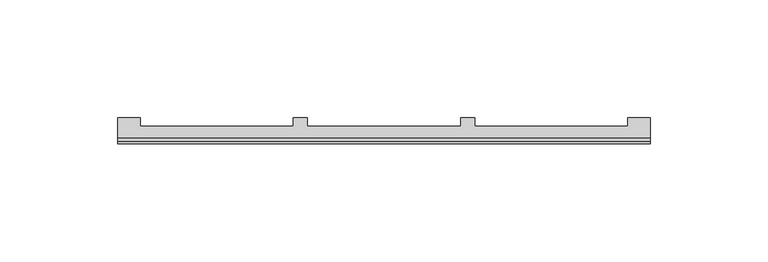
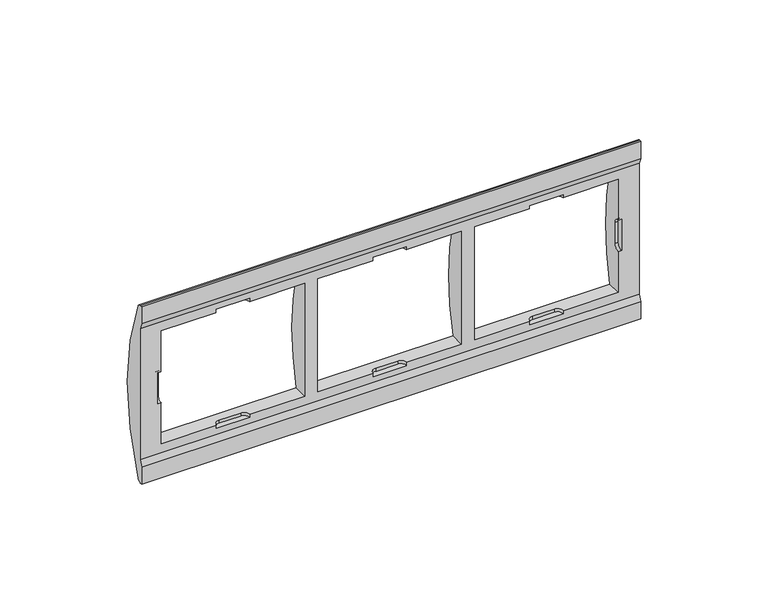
"""IFC4 building model written with IfcOpenShell, lengths in millimetres: proxy geometry, Iris_AluminioMercurio : Marco 3 Elementos."""

from ifc_helpers import new_model, si_unit, frame, origin, place, context, project, spatial, polyline, circle_curve, source, transform, mapped, element, save
from ifc_brep_helpers import plane_surface, cylinder_surface, revolved_surface, advanced_brep


def electrical_fixtures_3385e85f(model_context):
    return source(origin(), model_context, "Body", "AdvancedBrep", [
        advanced_brep(
        [(-58.7, 100.0, 957.5), (-58.7, 100.0, 965.7230531), (-58.7, 101.0, 968.6297767), (-58.7, 101.0, 1031.3702233), (-58.7, 100.0, 1034.2769469), (-58.7, 100.0, 1042.5), (-58.7, 100.7901352, 1042.5), (-58.7, 102.6322532, 1041.2788462), (-58.7, 102.6322532, 958.7211538), (-58.7, 100.7901352, 957.5), (167.3, 100.0, 957.5), (167.3, 100.7901352, 957.5), (167.3, 102.6322532, 958.7211538), (167.3, 102.6322532, 1041.2788462), (167.3, 100.7901352, 1042.5), (167.3, 100.0, 1042.5), (167.3, 100.0, 1034.2769469), (167.3, 101.0, 1031.3702233), (167.3, 101.0, 968.6297767), (167.3, 100.0, 965.7230531), (157.8, 111.0, 1000.0), (157.8, 107.5036585, 1027.0), (92.8, 107.5036585, 1027.0), (92.8, 111.0, 1000.0), (92.8, 107.5036585, 973.0), (157.8, 107.5036585, 973.0), (86.8, 111.0, 1000.0), (86.8, 107.5036585, 1027.0), (21.8, 107.5036585, 1027.0), (21.8, 111.0, 1000.0), (21.8, 107.5036585, 973.0), (86.8, 107.5036585, 973.0), (15.8, 111.0, 1000.0), (15.8, 107.5036585, 1027.0), (-49.2, 107.5036585, 1027.0), (-49.2, 111.0, 1000.0), (-49.2, 107.5036585, 973.0), (15.8, 107.5036585, 973.0), (159.3, 101.0, 1007.5), (159.3, 103.5, 1005.0), (159.3, 103.5, 995.0), (159.3, 101.0, 992.5), (157.8, 101.0, 1007.5), (157.8, 103.5, 1005.0), (157.8, 103.5, 995.0), (157.8, 101.0, 992.5), (-50.7, 101.0, 992.5), (-50.7, 103.5, 995.0), (-50.7, 103.5, 1005.0), (-50.7, 101.0, 1007.5), (-49.2, 103.5, 1005.0), (-49.2, 101.0, 1007.5), (-49.2, 103.5, 995.0), (-49.2, 101.0, 992.5), (157.8, 101.0, 973.0), (132.8, 101.0, 973.0), (132.8, 101.0, 971.5), (117.8, 101.0, 971.5), (117.8, 101.0, 973.0), (92.8, 101.0, 973.0), (92.8, 101.0, 1027.0), (117.8, 101.0, 1027.0), (117.8, 101.0, 1028.5), (132.8, 101.0, 1028.5), (132.8, 101.0, 1027.0), (157.8, 101.0, 1027.0), (-49.2, 101.0, 1027.0), (-24.2, 101.0, 1027.0), (-24.2, 101.0, 1028.5), (-9.2, 101.0, 1028.5), (-9.2, 101.0, 1027.0), (15.8, 101.0, 1027.0), (15.8, 101.0, 973.0), (-9.2, 101.0, 973.0), (-9.2, 101.0, 971.5), (-24.2, 101.0, 971.5), (-24.2, 101.0, 973.0), (-49.2, 101.0, 973.0), (46.8, 101.0, 1028.5), (61.8, 101.0, 1028.5), (61.8, 101.0, 1027.0), (86.8, 101.0, 1027.0), (86.8, 101.0, 973.0), (61.8, 101.0, 973.0), (61.8, 101.0, 971.5), (46.8, 101.0, 971.5), (46.8, 101.0, 973.0), (21.8, 101.0, 973.0), (21.8, 101.0, 1027.0), (46.8, 101.0, 1027.0), (130.3, 103.5, 971.5), (120.3, 103.5, 971.5), (120.3, 103.5, 973.0), (130.3, 103.5, 973.0), (120.3, 103.5, 1028.5), (130.3, 103.5, 1028.5), (120.3, 103.5, 1027.0), (130.3, 103.5, 1027.0), (49.3, 103.5, 1028.5), (59.3, 103.5, 1028.5), (49.3, 103.5, 1027.0), (59.3, 103.5, 1027.0), (59.3, 103.5, 971.5), (49.3, 103.5, 971.5), (49.3, 103.5, 973.0), (59.3, 103.5, 973.0), (-21.7, 103.5, 1028.5), (-11.7, 103.5, 1028.5), (-21.7, 103.5, 1027.0), (-11.7, 103.5, 1027.0), (-11.7, 103.5, 971.5), (-21.7, 103.5, 971.5), (-21.7, 103.5, 973.0), (-11.7, 103.5, 973.0)],
        [
            (0, 1),
            (1, 2, circle_curve(frame((-58.7, 5.0909091, 1000.0), z_axis=(1.0, 0.0, 0.0), x_axis=(0.0, 0.0, 1.0)), 100.9090909)),
            (2, 3),
            (3, 4, circle_curve(frame((-58.7, 5.0909091, 1000.0), z_axis=(1.0, 0.0, 0.0), x_axis=(0.0, 0.0, 1.0)), 100.9090909)),
            (4, 5),
            (5, 6),
            (6, 7, circle_curve(frame((-58.7, 100.7901352, 1040.5), z_axis=(-1.0, 0.0, 0.0), x_axis=(0.0, 0.0, 1.0)), 2.0)),
            (7, 8, circle_curve(frame((-58.7, 5.0, 1000.0), z_axis=(-1.0, 0.0, 0.0), x_axis=(0.0, 0.0, 1.0)), 106.0)),
            (8, 9, circle_curve(frame((-58.7, 100.7901352, 959.5), z_axis=(-1.0, 0.0, 0.0), x_axis=(0.0, 0.0, 1.0)), 2.0)),
            (9, 0),
            (10, 11),
            (11, 12, circle_curve(frame((167.3, 100.7901352, 959.5), z_axis=(1.0, 0.0, 0.0), x_axis=(0.0, 0.0, 1.0)), 2.0)),
            (12, 13, circle_curve(frame((167.3, 5.0, 1000.0), z_axis=(1.0, 0.0, 0.0), x_axis=(0.0, 0.0, 1.0)), 106.0)),
            (13, 14, circle_curve(frame((167.3, 100.7901352, 1040.5), z_axis=(1.0, 0.0, 0.0), x_axis=(0.0, 0.0, 1.0)), 2.0)),
            (14, 15),
            (15, 16),
            (16, 17, circle_curve(frame((167.3, 5.0909091, 1000.0), z_axis=(-1.0, 0.0, 0.0), x_axis=(0.0, 0.0, 1.0)), 100.9090909)),
            (17, 18),
            (18, 19, circle_curve(frame((167.3, 5.0909091, 1000.0), z_axis=(-1.0, 0.0, 0.0), x_axis=(0.0, 0.0, 1.0)), 100.9090909)),
            (19, 10),
            (0, 10),
            (19, 1),
            (7, 13),
            (12, 8),
            (20, 21, circle_curve(frame((157.8, 5.0, 1000.0), z_axis=(1.0, 0.0, 0.0), x_axis=(0.0, 0.0, 1.0)), 106.0)),
            (21, 22),
            (22, 23, circle_curve(frame((92.8, 5.0, 1000.0), z_axis=(-1.0, 0.0, 0.0), x_axis=(0.0, 0.0, 1.0)), 106.0)),
            (23, 24, circle_curve(frame((92.8, 5.0, 1000.0), z_axis=(-1.0, 0.0, 0.0), x_axis=(0.0, 0.0, 1.0)), 106.0)),
            (24, 25),
            (25, 20, circle_curve(frame((157.8, 5.0, 1000.0), z_axis=(1.0, 0.0, 0.0), x_axis=(0.0, 0.0, 1.0)), 106.0)),
            (26, 27, circle_curve(frame((86.8, 5.0, 1000.0), z_axis=(1.0, 0.0, 0.0), x_axis=(0.0, 0.0, 1.0)), 106.0)),
            (27, 28),
            (28, 29, circle_curve(frame((21.8, 5.0, 1000.0), z_axis=(-1.0, 0.0, 0.0), x_axis=(0.0, 0.0, 1.0)), 106.0)),
            (29, 30, circle_curve(frame((21.8, 5.0, 1000.0), z_axis=(-1.0, 0.0, 0.0), x_axis=(0.0, 0.0, 1.0)), 106.0)),
            (30, 31),
            (31, 26, circle_curve(frame((86.8, 5.0, 1000.0), z_axis=(1.0, 0.0, 0.0), x_axis=(0.0, 0.0, 1.0)), 106.0)),
            (32, 33, circle_curve(frame((15.8, 5.0, 1000.0), z_axis=(1.0, 0.0, 0.0), x_axis=(0.0, 0.0, 1.0)), 106.0)),
            (33, 34),
            (34, 35, circle_curve(frame((-49.2, 5.0, 1000.0), z_axis=(-1.0, 0.0, 0.0), x_axis=(0.0, 0.0, 1.0)), 106.0)),
            (35, 36, circle_curve(frame((-49.2, 5.0, 1000.0), z_axis=(-1.0, 0.0, 0.0), x_axis=(0.0, 0.0, 1.0)), 106.0)),
            (36, 37),
            (37, 32, circle_curve(frame((15.8, 5.0, 1000.0), z_axis=(1.0, 0.0, 0.0), x_axis=(0.0, 0.0, 1.0)), 106.0)),
            (5, 15),
            (14, 6),
            (9, 11),
            (38, 39, circle_curve(frame((159.3, 101.0, 1005.0), z_axis=(-1.0, 0.0, 0.0), x_axis=(0.0, 0.0, -1.0)), 2.5)),
            (39, 40),
            (40, 41, circle_curve(frame((159.3, 101.0, 995.0), z_axis=(-1.0, 0.0, 0.0), x_axis=(0.0, 0.0, -1.0)), 2.5)),
            (41, 38),
            (38, 42),
            (42, 43, circle_curve(frame((157.8, 101.0, 1005.0), z_axis=(-1.0, 0.0, 0.0), x_axis=(0.0, 0.0, -1.0)), 2.5)),
            (43, 39),
            (43, 44),
            (44, 40),
            (44, 45, circle_curve(frame((157.8, 101.0, 995.0), z_axis=(-1.0, 0.0, 0.0), x_axis=(0.0, 0.0, -1.0)), 2.5)),
            (45, 41),
            (46, 47, circle_curve(frame((-50.7, 101.0, 995.0), z_axis=(1.0, 0.0, 0.0), x_axis=(0.0, 0.0, -1.0)), 2.5)),
            (47, 48),
            (48, 49, circle_curve(frame((-50.7, 101.0, 1005.0), z_axis=(1.0, 0.0, 0.0), x_axis=(0.0, 0.0, -1.0)), 2.5)),
            (49, 46),
            (48, 50),
            (50, 51, circle_curve(frame((-49.2, 101.0, 1005.0), z_axis=(1.0, 0.0, 0.0), x_axis=(0.0, 0.0, -1.0)), 2.5)),
            (51, 49),
            (47, 52),
            (52, 50),
            (46, 53),
            (53, 52, circle_curve(frame((-49.2, 101.0, 995.0), z_axis=(1.0, 0.0, 0.0), x_axis=(0.0, 0.0, -1.0)), 2.5)),
            (18, 2),
            (17, 3),
            (45, 54),
            (54, 55),
            (55, 56),
            (56, 57),
            (57, 58),
            (58, 59),
            (59, 60),
            (60, 61),
            (61, 62),
            (62, 63),
            (63, 64),
            (64, 65),
            (65, 42),
            (51, 66),
            (66, 67),
            (67, 68),
            (68, 69),
            (69, 70),
            (70, 71),
            (71, 72),
            (72, 73),
            (73, 74),
            (74, 75),
            (75, 76),
            (76, 77),
            (77, 53),
            (78, 79),
            (79, 80),
            (80, 81),
            (81, 82),
            (82, 83),
            (83, 84),
            (84, 85),
            (85, 86),
            (86, 87),
            (87, 88),
            (88, 89),
            (89, 78),
            (16, 4),
            (56, 90, circle_curve(frame((130.3, 101.0, 971.5), z_axis=(0.0, 0.0, 1.0), x_axis=(1.0, 0.0, 0.0)), 2.5)),
            (90, 91),
            (91, 57, circle_curve(frame((120.3, 101.0, 971.5), z_axis=(0.0, 0.0, 1.0), x_axis=(1.0, 0.0, 0.0)), 2.5)),
            (91, 92),
            (92, 58, circle_curve(frame((120.3, 101.0, 973.0), z_axis=(0.0, 0.0, 1.0), x_axis=(1.0, 0.0, 0.0)), 2.5)),
            (90, 93),
            (93, 92),
            (55, 93, circle_curve(frame((130.3, 101.0, 973.0), z_axis=(0.0, 0.0, 1.0), x_axis=(1.0, 0.0, 0.0)), 2.5)),
            (62, 94, circle_curve(frame((120.3, 101.0, 1028.5), z_axis=(0.0, 0.0, -1.0), x_axis=(1.0, 0.0, 0.0)), 2.5)),
            (94, 95),
            (95, 63, circle_curve(frame((130.3, 101.0, 1028.5), z_axis=(0.0, 0.0, -1.0), x_axis=(1.0, 0.0, 0.0)), 2.5)),
            (61, 96, circle_curve(frame((120.3, 101.0, 1027.0), z_axis=(0.0, 0.0, -1.0), x_axis=(1.0, 0.0, 0.0)), 2.5)),
            (96, 94),
            (96, 97),
            (97, 95),
            (97, 64, circle_curve(frame((130.3, 101.0, 1027.0), z_axis=(0.0, 0.0, -1.0), x_axis=(1.0, 0.0, 0.0)), 2.5)),
            (78, 98, circle_curve(frame((49.3, 101.0, 1028.5), z_axis=(0.0, 0.0, -1.0), x_axis=(-1.0, 0.0, 0.0)), 2.5)),
            (98, 99),
            (99, 79, circle_curve(frame((59.3, 101.0, 1028.5), z_axis=(0.0, 0.0, -1.0), x_axis=(-1.0, 0.0, 0.0)), 2.5)),
            (89, 100, circle_curve(frame((49.3, 101.0, 1027.0), z_axis=(0.0, 0.0, -1.0), x_axis=(-1.0, 0.0, 0.0)), 2.5)),
            (100, 98),
            (100, 101),
            (101, 99),
            (101, 80, circle_curve(frame((59.3, 101.0, 1027.0), z_axis=(0.0, 0.0, -1.0), x_axis=(-1.0, 0.0, 0.0)), 2.5)),
            (84, 102, circle_curve(frame((59.3, 101.0, 971.5), z_axis=(0.0, 0.0, 1.0), x_axis=(-1.0, 0.0, 0.0)), 2.5)),
            (102, 103),
            (103, 85, circle_curve(frame((49.3, 101.0, 971.5), z_axis=(0.0, 0.0, 1.0), x_axis=(-1.0, 0.0, 0.0)), 2.5)),
            (103, 104),
            (104, 86, circle_curve(frame((49.3, 101.0, 973.0), z_axis=(0.0, 0.0, 1.0), x_axis=(-1.0, 0.0, 0.0)), 2.5)),
            (102, 105),
            (105, 104),
            (83, 105, circle_curve(frame((59.3, 101.0, 973.0), z_axis=(0.0, 0.0, 1.0), x_axis=(-1.0, 0.0, 0.0)), 2.5)),
            (68, 106, circle_curve(frame((-21.7, 101.0, 1028.5), z_axis=(0.0, 0.0, -1.0), x_axis=(-1.0, 0.0, 0.0)), 2.5)),
            (106, 107),
            (107, 69, circle_curve(frame((-11.7, 101.0, 1028.5), z_axis=(0.0, 0.0, -1.0), x_axis=(-1.0, 0.0, 0.0)), 2.5)),
            (67, 108, circle_curve(frame((-21.7, 101.0, 1027.0), z_axis=(0.0, 0.0, -1.0), x_axis=(-1.0, 0.0, 0.0)), 2.5)),
            (108, 106),
            (108, 109),
            (109, 107),
            (109, 70, circle_curve(frame((-11.7, 101.0, 1027.0), z_axis=(0.0, 0.0, -1.0), x_axis=(-1.0, 0.0, 0.0)), 2.5)),
            (74, 110, circle_curve(frame((-11.7, 101.0, 971.5), z_axis=(0.0, 0.0, 1.0), x_axis=(-1.0, 0.0, 0.0)), 2.5)),
            (110, 111),
            (111, 75, circle_curve(frame((-21.7, 101.0, 971.5), z_axis=(0.0, 0.0, 1.0), x_axis=(-1.0, 0.0, 0.0)), 2.5)),
            (111, 112),
            (112, 76, circle_curve(frame((-21.7, 101.0, 973.0), z_axis=(0.0, 0.0, 1.0), x_axis=(-1.0, 0.0, 0.0)), 2.5)),
            (110, 113),
            (113, 112),
            (73, 113, circle_curve(frame((-11.7, 101.0, 973.0), z_axis=(0.0, 0.0, 1.0), x_axis=(-1.0, 0.0, 0.0)), 2.5)),
            (65, 21),
            (25, 54),
            (59, 24),
            (22, 60),
            (81, 27),
            (31, 82),
            (87, 30),
            (28, 88),
            (71, 33),
            (37, 72),
            (77, 36),
            (34, 66),
        ],
        [
            plane_surface(frame((-58.7, 100.0, 1045.0), z_axis=(-1.0, 0.0, 0.0), x_axis=(0.0, 0.0, 1.0))),
            plane_surface(frame((167.3, 100.0, 1045.0), z_axis=(1.0, 0.0, 0.0), x_axis=(0.0, 0.0, -1.0))),
            plane_surface(frame((-58.7, 100.0, 957.5), z_axis=(0.0, -1.0, 0.0), x_axis=(1.0, 0.0, 0.0))),
            cylinder_surface(frame((167.3, 5.0, 1000.0), z_axis=(-1.0, 0.0, 0.0), x_axis=(0.0, 0.0, 1.0)), 106.0),
            plane_surface(frame((-58.7, 100.0, 1042.5), z_axis=(0.0, 0.0, 1.0), x_axis=(1.0, 0.0, 0.0))),
            plane_surface(frame((-58.7, 100.7901352, 957.5), z_axis=(0.0, 0.0, -1.0), x_axis=(1.0, 0.0, 0.0))),
            plane_surface(frame((159.3, 100.0, 1045.0), z_axis=(-1.0, 0.0, 0.0), x_axis=(0.0, 0.0, -1.0))),
            revolved_surface(polyline([(157.8, 101.0, 1002.5), (159.3, 101.0, 1002.5)]), (159.3, 101.0, 1005.0), (-1.0, 0.0, 0.0)),
            plane_surface(frame((153.8, 103.5, 1005.0), z_axis=(0.0, -1.0, 0.0), x_axis=(1.0, 0.0, 0.0))),
            revolved_surface(polyline([(157.8, 101.0, 992.5), (159.3, 101.0, 992.5)]), (159.3, 101.0, 995.0), (-1.0, 0.0, 0.0)),
            plane_surface(frame((-50.7, 101.0, 992.5), z_axis=(1.0, 0.0, 0.0), x_axis=(0.0, -1.0, 0.0))),
            revolved_surface(polyline([(-49.2, 101.0, 1002.5), (-50.7, 101.0, 1002.5)]), (-50.7, 101.0, 1005.0), (1.0, 0.0, 0.0)),
            plane_surface(frame((-45.2, 103.5, 995.0), z_axis=(0.0, -1.0, 0.0), x_axis=(-1.0, 0.0, 0.0))),
            revolved_surface(polyline([(-49.2, 101.0, 992.5), (-50.7, 101.0, 992.5)]), (-50.7, 101.0, 995.0), (1.0, 0.0, 0.0)),
            revolved_surface(polyline([(167.3, 5.0909091, 1100.9090909), (-58.69999999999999, 5.0909091, 1100.9090909)]), (167.3, 5.0909091, 1000.0), (1.0, 0.0, 0.0)),
            plane_surface(frame((-58.7, 101.0, 968.6297767), z_axis=(0.0, -1.0, 0.0), x_axis=(1.0, 0.0, 0.0))),
            plane_surface(frame((-58.7, 100.0, 1034.2769469), z_axis=(0.0, -1.0, 0.0), x_axis=(1.0, 0.0, 0.0))),
            plane_surface(frame((80.3, 100.0, 971.5), z_axis=(0.0, 0.0, 1.0), x_axis=(-1.0, 0.0, 0.0))),
            revolved_surface(polyline([(122.8, 101.0, 971.5), (122.8, 101.0, 973.0)]), (120.3, 101.0, 979.0), (0.0, 0.0, -1.0)),
            plane_surface(frame((120.3, 103.5, 971.5), z_axis=(0.0, -1.0, 0.0), x_axis=(0.0, 0.0, 1.0))),
            revolved_surface(polyline([(132.8, 101.0, 971.5), (132.8, 101.0, 973.0)]), (130.3, 101.0, 979.0), (0.0, 0.0, -1.0)),
            plane_surface(frame((132.8, 120.0298457, 1028.5), z_axis=(0.0, 0.0, -1.0), x_axis=(0.0, 1.0, 0.0))),
            revolved_surface(polyline([(122.8, 101.0, 1028.5), (122.8, 101.0, 1027.0)]), (120.3, 101.0, 1021.0), (0.0, 0.0, 1.0)),
            plane_surface(frame((130.3, 103.5, 1028.5), z_axis=(0.0, -1.0, 0.0), x_axis=(0.0, 0.0, -1.0))),
            revolved_surface(polyline([(132.8, 101.0, 1028.5), (132.8, 101.0, 1027.0)]), (130.3, 101.0, 1021.0), (0.0, 0.0, 1.0)),
            plane_surface(frame((61.8, 101.0, 1028.5), z_axis=(0.0, 0.0, -1.0), x_axis=(0.0, 1.0, 0.0))),
            revolved_surface(polyline([(46.8, 101.0, 1028.5), (46.8, 101.0, 1027.0)]), (49.3, 101.0, 1021.0), (0.0, 0.0, 1.0)),
            plane_surface(frame((59.3, 103.5, 1028.5), z_axis=(0.0, -1.0, 0.0), x_axis=(0.0, 0.0, -1.0))),
            revolved_surface(polyline([(56.8, 101.0, 1028.5), (56.8, 101.0, 1027.0)]), (59.3, 101.0, 1021.0), (0.0, 0.0, 1.0)),
            plane_surface(frame((46.8, 100.0, 971.5), z_axis=(0.0, 0.0, 1.0), x_axis=(-1.0, 0.0, 0.0))),
            revolved_surface(polyline([(46.8, 101.0, 971.5), (46.8, 101.0, 973.0)]), (49.3, 101.0, 979.0), (0.0, 0.0, -1.0)),
            plane_surface(frame((49.3, 103.5, 971.5), z_axis=(0.0, -1.0, 0.0), x_axis=(0.0, 0.0, 1.0))),
            revolved_surface(polyline([(56.8, 101.0, 971.5), (56.8, 101.0, 973.0)]), (59.3, 101.0, 979.0), (0.0, 0.0, -1.0)),
            plane_surface(frame((-9.2, 101.0, 1028.5), z_axis=(0.0, 0.0, -1.0), x_axis=(0.0, 1.0, 0.0))),
            revolved_surface(polyline([(-24.2, 101.0, 1028.5), (-24.2, 101.0, 1027.0)]), (-21.7, 101.0, 1021.0), (0.0, 0.0, 1.0)),
            plane_surface(frame((-11.7, 103.5, 1028.5), z_axis=(0.0, -1.0, 0.0), x_axis=(0.0, 0.0, -1.0))),
            revolved_surface(polyline([(-14.2, 101.0, 1028.5), (-14.2, 101.0, 1027.0)]), (-11.7, 101.0, 1021.0), (0.0, 0.0, 1.0)),
            plane_surface(frame((-24.2, 100.0, 971.5), z_axis=(0.0, 0.0, 1.0), x_axis=(-1.0, 0.0, 0.0))),
            revolved_surface(polyline([(-24.2, 101.0, 971.5), (-24.2, 101.0, 973.0)]), (-21.7, 101.0, 979.0), (0.0, 0.0, -1.0)),
            plane_surface(frame((-21.7, 103.5, 971.5), z_axis=(0.0, -1.0, 0.0), x_axis=(0.0, 0.0, 1.0))),
            revolved_surface(polyline([(-14.2, 101.0, 971.5), (-14.2, 101.0, 973.0)]), (-11.7, 101.0, 979.0), (0.0, 0.0, -1.0)),
            plane_surface(frame((157.8, 94.1055079, 973.0), z_axis=(-1.0, 0.0, 0.0), x_axis=(0.0, 1.0, 0.0))),
            plane_surface(frame((92.8, 94.1055079, 973.0), z_axis=(1.0, 0.0, 0.0), x_axis=(0.0, -1.0, 0.0))),
            plane_surface(frame((157.8, 111.0, 1027.0), z_axis=(0.0, 0.0, -1.0), x_axis=(-1.0, 0.0, 0.0))),
            plane_surface(frame((157.8, 100.0, 973.0), z_axis=(0.0, 0.0, 1.0), x_axis=(-1.0, 0.0, 0.0))),
            plane_surface(frame((86.8, 94.1055079, 973.0), z_axis=(-1.0, 0.0, 0.0), x_axis=(0.0, 1.0, 0.0))),
            plane_surface(frame((21.8, 94.1055079, 973.0), z_axis=(1.0, 0.0, 0.0), x_axis=(0.0, -1.0, 0.0))),
            plane_surface(frame((86.8, 111.0, 1027.0), z_axis=(0.0, 0.0, -1.0), x_axis=(-1.0, 0.0, 0.0))),
            plane_surface(frame((86.8, 100.0, 973.0), z_axis=(0.0, 0.0, 1.0), x_axis=(-1.0, 0.0, 0.0))),
            plane_surface(frame((15.8, 100.0, 973.0), z_axis=(-1.0, 0.0, 0.0), x_axis=(0.0, 1.0, 0.0))),
            plane_surface(frame((-49.2, 100.0, 973.0), z_axis=(1.0, 0.0, 0.0), x_axis=(0.0, -1.0, 0.0))),
            plane_surface(frame((15.8, 111.0, 1027.0), z_axis=(0.0, 0.0, -1.0), x_axis=(-1.0, 0.0, 0.0))),
            plane_surface(frame((15.8, 100.0, 973.0), z_axis=(0.0, 0.0, 1.0), x_axis=(-1.0, 0.0, 0.0))),
            cylinder_surface(frame((167.3, 100.7901352, 1040.5), z_axis=(-1.0, 0.0, 0.0), x_axis=(0.0, 0.0, 1.0)), 2.0),
            cylinder_surface(frame((167.3, 100.7901352, 959.5), z_axis=(-1.0, 0.0, 0.0), x_axis=(0.0, 0.0, 1.0)), 2.0),
        ],
        [
            (0, [[1, 2, 3, 4, 5, 6, 7, 8, 9, 10]]),
            (1, [[11, 12, 13, 14, 15, 16, 17, 18, 19, 20]]),
            (2, [[-1, 21, -20, 22]]),
            (3, [[-8, 23, -13, 24], [25, 26, 27, 28, 29, 30], [31, 32, 33, 34, 35, 36], [37, 38, 39, 40, 41, 42]]),
            (4, [[-6, 43, -15, 44]]),
            (5, [[-10, 45, -11, -21]]),
            (6, [[46, 47, 48, 49]]),
            (7, [[-46, 50, 51, 52]]),
            (8, [[-47, -52, 53, 54]]),
            (9, [[-48, -54, 55, 56]]),
            (10, [[57, 58, 59, 60]]),
            (11, [[-59, 61, 62, 63]]),
            (12, [[-58, 64, 65, -61]]),
            (13, [[-57, 66, 67, -64]]),
            (14, [[-2, -22, -19, 68]]),
            (15, [[-3, -68, -18, 69], [-49, -56, 70, 71, 72, 73, 74, 75, 76, 77, 78, 79, 80, 81, 82, -50], [-60, -63, 83, 84, 85, 86, 87, 88, 89, 90, 91, 92, 93, 94, 95, -66], [96, 97, 98, 99, 100, 101, 102, 103, 104, 105, 106, 107]]),
            (14, [[-4, -69, -17, 108]]),
            (16, [[-5, -108, -16, -43]]),
            (17, [[109, 110, 111, -73]]),
            (18, [[-111, 112, 113, -74]]),
            (19, [[-110, 114, 115, -112]]),
            (20, [[-109, -72, 116, -114]]),
            (21, [[117, 118, 119, -79]]),
            (22, [[-117, -78, 120, 121]]),
            (23, [[-118, -121, 122, 123]]),
            (24, [[-119, -123, 124, -80]]),
            (25, [[125, 126, 127, -96]]),
            (26, [[-125, -107, 128, 129]]),
            (27, [[-126, -129, 130, 131]]),
            (28, [[-127, -131, 132, -97]]),
            (29, [[133, 134, 135, -102]]),
            (30, [[-135, 136, 137, -103]]),
            (31, [[-134, 138, 139, -136]]),
            (32, [[-133, -101, 140, -138]]),
            (33, [[141, 142, 143, -86]]),
            (34, [[-141, -85, 144, 145]]),
            (35, [[-142, -145, 146, 147]]),
            (36, [[-143, -147, 148, -87]]),
            (37, [[149, 150, 151, -92]]),
            (38, [[-151, 152, 153, -93]]),
            (39, [[-150, 154, 155, -152]]),
            (40, [[-149, -91, 156, -154]]),
            (41, [[157, -25, -30, 158, -70, -55, -53, -51, -82]]),
            (42, [[159, -28, -27, 160, -76]]),
            (43, [[-157, -81, -124, -122, -120, -77, -160, -26]]),
            (44, [[-158, -29, -159, -75, -113, -115, -116, -71]]),
            (45, [[161, -31, -36, 162, -99]]),
            (46, [[163, -34, -33, 164, -105]]),
            (47, [[-161, -98, -132, -130, -128, -106, -164, -32]]),
            (48, [[-162, -35, -163, -104, -137, -139, -140, -100]]),
            (49, [[165, -37, -42, 166, -89]]),
            (50, [[167, -40, -39, 168, -83, -62, -65, -67, -95]]),
            (51, [[-165, -88, -148, -146, -144, -84, -168, -38]]),
            (52, [[-166, -41, -167, -94, -153, -155, -156, -90]]),
            (53, [[-7, -44, -14, -23]]),
            (54, [[-9, -24, -12, -45]]),
        ],
    ),
        advanced_brep(
        [(-58.7, 100.0, 957.5), (-58.7, 100.0, 965.7230531), (-58.7, 101.0, 968.6297767), (-58.7, 101.0, 1031.3702233), (-58.7, 100.0, 1034.2769469), (-58.7, 100.0, 1042.5), (-58.7, 100.7901352, 1042.5), (-58.7, 102.6322532, 1041.2788462), (-58.7, 102.6322532, 958.7211538), (-58.7, 100.7901352, 957.5), (167.3, 100.0, 957.5), (167.3, 100.7901352, 957.5), (167.3, 102.6322532, 958.7211538), (167.3, 102.6322532, 1041.2788462), (167.3, 100.7901352, 1042.5), (167.3, 100.0, 1042.5), (167.3, 100.0, 1034.2769469), (167.3, 101.0, 1031.3702233), (167.3, 101.0, 968.6297767), (167.3, 100.0, 965.7230531), (157.8, 111.0, 1000.0), (157.8, 107.5036585, 1027.0), (92.8, 107.5036585, 1027.0), (92.8, 111.0, 1000.0), (92.8, 107.5036585, 973.0), (157.8, 107.5036585, 973.0), (86.8, 111.0, 1000.0), (86.8, 107.5036585, 1027.0), (21.8, 107.5036585, 1027.0), (21.8, 111.0, 1000.0), (21.8, 107.5036585, 973.0), (86.8, 107.5036585, 973.0), (15.8, 111.0, 1000.0), (15.8, 107.5036585, 1027.0), (-49.2, 107.5036585, 1027.0), (-49.2, 111.0, 1000.0), (-49.2, 107.5036585, 973.0), (15.8, 107.5036585, 973.0), (159.3, 101.0, 1007.5), (159.3, 103.5, 1005.0), (159.3, 103.5, 995.0), (159.3, 101.0, 992.5), (157.8, 101.0, 1007.5), (157.8, 103.5, 1005.0), (157.8, 103.5, 995.0), (157.8, 101.0, 992.5), (-50.7, 101.0, 992.5), (-50.7, 103.5, 995.0), (-50.7, 103.5, 1005.0), (-50.7, 101.0, 1007.5), (-49.2, 103.5, 1005.0), (-49.2, 101.0, 1007.5), (-49.2, 103.5, 995.0), (-49.2, 101.0, 992.5), (157.8, 101.0, 973.0), (132.8, 101.0, 973.0), (132.8, 101.0, 971.5), (117.8, 101.0, 971.5), (117.8, 101.0, 973.0), (92.8, 101.0, 973.0), (92.8, 101.0, 1027.0), (117.8, 101.0, 1027.0), (117.8, 101.0, 1028.5), (132.8, 101.0, 1028.5), (132.8, 101.0, 1027.0), (157.8, 101.0, 1027.0), (-49.2, 101.0, 1027.0), (-24.2, 101.0, 1027.0), (-24.2, 101.0, 1028.5), (-9.2, 101.0, 1028.5), (-9.2, 101.0, 1027.0), (15.8, 101.0, 1027.0), (15.8, 101.0, 973.0), (-9.2, 101.0, 973.0), (-9.2, 101.0, 971.5), (-24.2, 101.0, 971.5), (-24.2, 101.0, 973.0), (-49.2, 101.0, 973.0), (46.8, 101.0, 1028.5), (61.8, 101.0, 1028.5), (61.8, 101.0, 1027.0), (86.8, 101.0, 1027.0), (86.8, 101.0, 973.0), (61.8, 101.0, 973.0), (61.8, 101.0, 971.5), (46.8, 101.0, 971.5), (46.8, 101.0, 973.0), (21.8, 101.0, 973.0), (21.8, 101.0, 1027.0), (46.8, 101.0, 1027.0), (130.3, 103.5, 971.5), (120.3, 103.5, 971.5), (120.3, 103.5, 973.0), (130.3, 103.5, 973.0), (120.3, 103.5, 1028.5), (130.3, 103.5, 1028.5), (120.3, 103.5, 1027.0), (130.3, 103.5, 1027.0), (49.3, 103.5, 1028.5), (59.3, 103.5, 1028.5), (49.3, 103.5, 1027.0), (59.3, 103.5, 1027.0), (59.3, 103.5, 971.5), (49.3, 103.5, 971.5), (49.3, 103.5, 973.0), (59.3, 103.5, 973.0), (-21.7, 103.5, 1028.5), (-11.7, 103.5, 1028.5), (-21.7, 103.5, 1027.0), (-11.7, 103.5, 1027.0), (-11.7, 103.5, 971.5), (-21.7, 103.5, 971.5), (-21.7, 103.5, 973.0), (-11.7, 103.5, 973.0)],
        [
            (0, 1),
            (1, 2, circle_curve(frame((-58.7, 5.0909091, 1000.0), z_axis=(1.0, 0.0, 0.0), x_axis=(0.0, 0.0, 1.0)), 100.9090909)),
            (2, 3),
            (3, 4, circle_curve(frame((-58.7, 5.0909091, 1000.0), z_axis=(1.0, 0.0, 0.0), x_axis=(0.0, 0.0, 1.0)), 100.9090909)),
            (4, 5),
            (5, 6),
            (6, 7, circle_curve(frame((-58.7, 100.7901352, 1040.5), z_axis=(-1.0, 0.0, 0.0), x_axis=(0.0, 0.0, 1.0)), 2.0)),
            (7, 8, circle_curve(frame((-58.7, 5.0, 1000.0), z_axis=(-1.0, 0.0, 0.0), x_axis=(0.0, 0.0, 1.0)), 106.0)),
            (8, 9, circle_curve(frame((-58.7, 100.7901352, 959.5), z_axis=(-1.0, 0.0, 0.0), x_axis=(0.0, 0.0, 1.0)), 2.0)),
            (9, 0),
            (10, 11),
            (11, 12, circle_curve(frame((167.3, 100.7901352, 959.5), z_axis=(1.0, 0.0, 0.0), x_axis=(0.0, 0.0, 1.0)), 2.0)),
            (12, 13, circle_curve(frame((167.3, 5.0, 1000.0), z_axis=(1.0, 0.0, 0.0), x_axis=(0.0, 0.0, 1.0)), 106.0)),
            (13, 14, circle_curve(frame((167.3, 100.7901352, 1040.5), z_axis=(1.0, 0.0, 0.0), x_axis=(0.0, 0.0, 1.0)), 2.0)),
            (14, 15),
            (15, 16),
            (16, 17, circle_curve(frame((167.3, 5.0909091, 1000.0), z_axis=(-1.0, 0.0, 0.0), x_axis=(0.0, 0.0, 1.0)), 100.9090909)),
            (17, 18),
            (18, 19, circle_curve(frame((167.3, 5.0909091, 1000.0), z_axis=(-1.0, 0.0, 0.0), x_axis=(0.0, 0.0, 1.0)), 100.9090909)),
            (19, 10),
            (0, 10),
            (19, 1),
            (7, 13),
            (12, 8),
            (20, 21, circle_curve(frame((157.8, 5.0, 1000.0), z_axis=(1.0, 0.0, 0.0), x_axis=(0.0, 0.0, 1.0)), 106.0)),
            (21, 22),
            (22, 23, circle_curve(frame((92.8, 5.0, 1000.0), z_axis=(-1.0, 0.0, 0.0), x_axis=(0.0, 0.0, 1.0)), 106.0)),
            (23, 24, circle_curve(frame((92.8, 5.0, 1000.0), z_axis=(-1.0, 0.0, 0.0), x_axis=(0.0, 0.0, 1.0)), 106.0)),
            (24, 25),
            (25, 20, circle_curve(frame((157.8, 5.0, 1000.0), z_axis=(1.0, 0.0, 0.0), x_axis=(0.0, 0.0, 1.0)), 106.0)),
            (26, 27, circle_curve(frame((86.8, 5.0, 1000.0), z_axis=(1.0, 0.0, 0.0), x_axis=(0.0, 0.0, 1.0)), 106.0)),
            (27, 28),
            (28, 29, circle_curve(frame((21.8, 5.0, 1000.0), z_axis=(-1.0, 0.0, 0.0), x_axis=(0.0, 0.0, 1.0)), 106.0)),
            (29, 30, circle_curve(frame((21.8, 5.0, 1000.0), z_axis=(-1.0, 0.0, 0.0), x_axis=(0.0, 0.0, 1.0)), 106.0)),
            (30, 31),
            (31, 26, circle_curve(frame((86.8, 5.0, 1000.0), z_axis=(1.0, 0.0, 0.0), x_axis=(0.0, 0.0, 1.0)), 106.0)),
            (32, 33, circle_curve(frame((15.8, 5.0, 1000.0), z_axis=(1.0, 0.0, 0.0), x_axis=(0.0, 0.0, 1.0)), 106.0)),
            (33, 34),
            (34, 35, circle_curve(frame((-49.2, 5.0, 1000.0), z_axis=(-1.0, 0.0, 0.0), x_axis=(0.0, 0.0, 1.0)), 106.0)),
            (35, 36, circle_curve(frame((-49.2, 5.0, 1000.0), z_axis=(-1.0, 0.0, 0.0), x_axis=(0.0, 0.0, 1.0)), 106.0)),
            (36, 37),
            (37, 32, circle_curve(frame((15.8, 5.0, 1000.0), z_axis=(1.0, 0.0, 0.0), x_axis=(0.0, 0.0, 1.0)), 106.0)),
            (5, 15),
            (14, 6),
            (9, 11),
            (38, 39, circle_curve(frame((159.3, 101.0, 1005.0), z_axis=(-1.0, 0.0, 0.0), x_axis=(0.0, 0.0, -1.0)), 2.5)),
            (39, 40),
            (40, 41, circle_curve(frame((159.3, 101.0, 995.0), z_axis=(-1.0, 0.0, 0.0), x_axis=(0.0, 0.0, -1.0)), 2.5)),
            (41, 38),
            (38, 42),
            (42, 43, circle_curve(frame((157.8, 101.0, 1005.0), z_axis=(-1.0, 0.0, 0.0), x_axis=(0.0, 0.0, -1.0)), 2.5)),
            (43, 39),
            (43, 44),
            (44, 40),
            (44, 45, circle_curve(frame((157.8, 101.0, 995.0), z_axis=(-1.0, 0.0, 0.0), x_axis=(0.0, 0.0, -1.0)), 2.5)),
            (45, 41),
            (46, 47, circle_curve(frame((-50.7, 101.0, 995.0), z_axis=(1.0, 0.0, 0.0), x_axis=(0.0, 0.0, -1.0)), 2.5)),
            (47, 48),
            (48, 49, circle_curve(frame((-50.7, 101.0, 1005.0), z_axis=(1.0, 0.0, 0.0), x_axis=(0.0, 0.0, -1.0)), 2.5)),
            (49, 46),
            (48, 50),
            (50, 51, circle_curve(frame((-49.2, 101.0, 1005.0), z_axis=(1.0, 0.0, 0.0), x_axis=(0.0, 0.0, -1.0)), 2.5)),
            (51, 49),
            (47, 52),
            (52, 50),
            (46, 53),
            (53, 52, circle_curve(frame((-49.2, 101.0, 995.0), z_axis=(1.0, 0.0, 0.0), x_axis=(0.0, 0.0, -1.0)), 2.5)),
            (18, 2),
            (17, 3),
            (45, 54),
            (54, 55),
            (55, 56),
            (56, 57),
            (57, 58),
            (58, 59),
            (59, 60),
            (60, 61),
            (61, 62),
            (62, 63),
            (63, 64),
            (64, 65),
            (65, 42),
            (51, 66),
            (66, 67),
            (67, 68),
            (68, 69),
            (69, 70),
            (70, 71),
            (71, 72),
            (72, 73),
            (73, 74),
            (74, 75),
            (75, 76),
            (76, 77),
            (77, 53),
            (78, 79),
            (79, 80),
            (80, 81),
            (81, 82),
            (82, 83),
            (83, 84),
            (84, 85),
            (85, 86),
            (86, 87),
            (87, 88),
            (88, 89),
            (89, 78),
            (16, 4),
            (56, 90, circle_curve(frame((130.3, 101.0, 971.5), z_axis=(0.0, 0.0, 1.0), x_axis=(1.0, 0.0, 0.0)), 2.5)),
            (90, 91),
            (91, 57, circle_curve(frame((120.3, 101.0, 971.5), z_axis=(0.0, 0.0, 1.0), x_axis=(1.0, 0.0, 0.0)), 2.5)),
            (91, 92),
            (92, 58, circle_curve(frame((120.3, 101.0, 973.0), z_axis=(0.0, 0.0, 1.0), x_axis=(1.0, 0.0, 0.0)), 2.5)),
            (90, 93),
            (93, 92),
            (55, 93, circle_curve(frame((130.3, 101.0, 973.0), z_axis=(0.0, 0.0, 1.0), x_axis=(1.0, 0.0, 0.0)), 2.5)),
            (62, 94, circle_curve(frame((120.3, 101.0, 1028.5), z_axis=(0.0, 0.0, -1.0), x_axis=(1.0, 0.0, 0.0)), 2.5)),
            (94, 95),
            (95, 63, circle_curve(frame((130.3, 101.0, 1028.5), z_axis=(0.0, 0.0, -1.0), x_axis=(1.0, 0.0, 0.0)), 2.5)),
            (61, 96, circle_curve(frame((120.3, 101.0, 1027.0), z_axis=(0.0, 0.0, -1.0), x_axis=(1.0, 0.0, 0.0)), 2.5)),
            (96, 94),
            (96, 97),
            (97, 95),
            (97, 64, circle_curve(frame((130.3, 101.0, 1027.0), z_axis=(0.0, 0.0, -1.0), x_axis=(1.0, 0.0, 0.0)), 2.5)),
            (78, 98, circle_curve(frame((49.3, 101.0, 1028.5), z_axis=(0.0, 0.0, -1.0), x_axis=(-1.0, 0.0, 0.0)), 2.5)),
            (98, 99),
            (99, 79, circle_curve(frame((59.3, 101.0, 1028.5), z_axis=(0.0, 0.0, -1.0), x_axis=(-1.0, 0.0, 0.0)), 2.5)),
            (89, 100, circle_curve(frame((49.3, 101.0, 1027.0), z_axis=(0.0, 0.0, -1.0), x_axis=(-1.0, 0.0, 0.0)), 2.5)),
            (100, 98),
            (100, 101),
            (101, 99),
            (101, 80, circle_curve(frame((59.3, 101.0, 1027.0), z_axis=(0.0, 0.0, -1.0), x_axis=(-1.0, 0.0, 0.0)), 2.5)),
            (84, 102, circle_curve(frame((59.3, 101.0, 971.5), z_axis=(0.0, 0.0, 1.0), x_axis=(-1.0, 0.0, 0.0)), 2.5)),
            (102, 103),
            (103, 85, circle_curve(frame((49.3, 101.0, 971.5), z_axis=(0.0, 0.0, 1.0), x_axis=(-1.0, 0.0, 0.0)), 2.5)),
            (103, 104),
            (104, 86, circle_curve(frame((49.3, 101.0, 973.0), z_axis=(0.0, 0.0, 1.0), x_axis=(-1.0, 0.0, 0.0)), 2.5)),
            (102, 105),
            (105, 104),
            (83, 105, circle_curve(frame((59.3, 101.0, 973.0), z_axis=(0.0, 0.0, 1.0), x_axis=(-1.0, 0.0, 0.0)), 2.5)),
            (68, 106, circle_curve(frame((-21.7, 101.0, 1028.5), z_axis=(0.0, 0.0, -1.0), x_axis=(-1.0, 0.0, 0.0)), 2.5)),
            (106, 107),
            (107, 69, circle_curve(frame((-11.7, 101.0, 1028.5), z_axis=(0.0, 0.0, -1.0), x_axis=(-1.0, 0.0, 0.0)), 2.5)),
            (67, 108, circle_curve(frame((-21.7, 101.0, 1027.0), z_axis=(0.0, 0.0, -1.0), x_axis=(-1.0, 0.0, 0.0)), 2.5)),
            (108, 106),
            (108, 109),
            (109, 107),
            (109, 70, circle_curve(frame((-11.7, 101.0, 1027.0), z_axis=(0.0, 0.0, -1.0), x_axis=(-1.0, 0.0, 0.0)), 2.5)),
            (74, 110, circle_curve(frame((-11.7, 101.0, 971.5), z_axis=(0.0, 0.0, 1.0), x_axis=(-1.0, 0.0, 0.0)), 2.5)),
            (110, 111),
            (111, 75, circle_curve(frame((-21.7, 101.0, 971.5), z_axis=(0.0, 0.0, 1.0), x_axis=(-1.0, 0.0, 0.0)), 2.5)),
            (111, 112),
            (112, 76, circle_curve(frame((-21.7, 101.0, 973.0), z_axis=(0.0, 0.0, 1.0), x_axis=(-1.0, 0.0, 0.0)), 2.5)),
            (110, 113),
            (113, 112),
            (73, 113, circle_curve(frame((-11.7, 101.0, 973.0), z_axis=(0.0, 0.0, 1.0), x_axis=(-1.0, 0.0, 0.0)), 2.5)),
            (65, 21),
            (25, 54),
            (59, 24),
            (22, 60),
            (81, 27),
            (31, 82),
            (87, 30),
            (28, 88),
            (71, 33),
            (37, 72),
            (77, 36),
            (34, 66),
        ],
        [
            plane_surface(frame((-58.7, 100.0, 1045.0), z_axis=(-1.0, 0.0, 0.0), x_axis=(0.0, 0.0, 1.0))),
            plane_surface(frame((167.3, 100.0, 1045.0), z_axis=(1.0, 0.0, 0.0), x_axis=(0.0, 0.0, -1.0))),
            plane_surface(frame((-58.7, 100.0, 957.5), z_axis=(0.0, -1.0, 0.0), x_axis=(1.0, 0.0, 0.0))),
            cylinder_surface(frame((167.3, 5.0, 1000.0), z_axis=(-1.0, 0.0, 0.0), x_axis=(0.0, 0.0, 1.0)), 106.0),
            plane_surface(frame((-58.7, 100.0, 1042.5), z_axis=(0.0, 0.0, 1.0), x_axis=(1.0, 0.0, 0.0))),
            plane_surface(frame((-58.7, 100.7901352, 957.5), z_axis=(0.0, 0.0, -1.0), x_axis=(1.0, 0.0, 0.0))),
            plane_surface(frame((159.3, 100.0, 1045.0), z_axis=(-1.0, 0.0, 0.0), x_axis=(0.0, 0.0, -1.0))),
            revolved_surface(polyline([(157.8, 101.0, 1002.5), (159.3, 101.0, 1002.5)]), (159.3, 101.0, 1005.0), (-1.0, 0.0, 0.0)),
            plane_surface(frame((153.8, 103.5, 1005.0), z_axis=(0.0, -1.0, 0.0), x_axis=(1.0, 0.0, 0.0))),
            revolved_surface(polyline([(157.8, 101.0, 992.5), (159.3, 101.0, 992.5)]), (159.3, 101.0, 995.0), (-1.0, 0.0, 0.0)),
            plane_surface(frame((-50.7, 101.0, 992.5), z_axis=(1.0, 0.0, 0.0), x_axis=(0.0, -1.0, 0.0))),
            revolved_surface(polyline([(-49.2, 101.0, 1002.5), (-50.7, 101.0, 1002.5)]), (-50.7, 101.0, 1005.0), (1.0, 0.0, 0.0)),
            plane_surface(frame((-45.2, 103.5, 995.0), z_axis=(0.0, -1.0, 0.0), x_axis=(-1.0, 0.0, 0.0))),
            revolved_surface(polyline([(-49.2, 101.0, 992.5), (-50.7, 101.0, 992.5)]), (-50.7, 101.0, 995.0), (1.0, 0.0, 0.0)),
            revolved_surface(polyline([(167.3, 5.0909091, 1100.9090909), (-58.69999999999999, 5.0909091, 1100.9090909)]), (167.3, 5.0909091, 1000.0), (1.0, 0.0, 0.0)),
            plane_surface(frame((-58.7, 101.0, 968.6297767), z_axis=(0.0, -1.0, 0.0), x_axis=(1.0, 0.0, 0.0))),
            plane_surface(frame((-58.7, 100.0, 1034.2769469), z_axis=(0.0, -1.0, 0.0), x_axis=(1.0, 0.0, 0.0))),
            plane_surface(frame((80.3, 100.0, 971.5), z_axis=(0.0, 0.0, 1.0), x_axis=(-1.0, 0.0, 0.0))),
            revolved_surface(polyline([(122.8, 101.0, 971.5), (122.8, 101.0, 973.0)]), (120.3, 101.0, 979.0), (0.0, 0.0, -1.0)),
            plane_surface(frame((120.3, 103.5, 971.5), z_axis=(0.0, -1.0, 0.0), x_axis=(0.0, 0.0, 1.0))),
            revolved_surface(polyline([(132.8, 101.0, 971.5), (132.8, 101.0, 973.0)]), (130.3, 101.0, 979.0), (0.0, 0.0, -1.0)),
            plane_surface(frame((132.8, 120.0298457, 1028.5), z_axis=(0.0, 0.0, -1.0), x_axis=(0.0, 1.0, 0.0))),
            revolved_surface(polyline([(122.8, 101.0, 1028.5), (122.8, 101.0, 1027.0)]), (120.3, 101.0, 1021.0), (0.0, 0.0, 1.0)),
            plane_surface(frame((130.3, 103.5, 1028.5), z_axis=(0.0, -1.0, 0.0), x_axis=(0.0, 0.0, -1.0))),
            revolved_surface(polyline([(132.8, 101.0, 1028.5), (132.8, 101.0, 1027.0)]), (130.3, 101.0, 1021.0), (0.0, 0.0, 1.0)),
            plane_surface(frame((61.8, 101.0, 1028.5), z_axis=(0.0, 0.0, -1.0), x_axis=(0.0, 1.0, 0.0))),
            revolved_surface(polyline([(46.8, 101.0, 1028.5), (46.8, 101.0, 1027.0)]), (49.3, 101.0, 1021.0), (0.0, 0.0, 1.0)),
            plane_surface(frame((59.3, 103.5, 1028.5), z_axis=(0.0, -1.0, 0.0), x_axis=(0.0, 0.0, -1.0))),
            revolved_surface(polyline([(56.8, 101.0, 1028.5), (56.8, 101.0, 1027.0)]), (59.3, 101.0, 1021.0), (0.0, 0.0, 1.0)),
            plane_surface(frame((46.8, 100.0, 971.5), z_axis=(0.0, 0.0, 1.0), x_axis=(-1.0, 0.0, 0.0))),
            revolved_surface(polyline([(46.8, 101.0, 971.5), (46.8, 101.0, 973.0)]), (49.3, 101.0, 979.0), (0.0, 0.0, -1.0)),
            plane_surface(frame((49.3, 103.5, 971.5), z_axis=(0.0, -1.0, 0.0), x_axis=(0.0, 0.0, 1.0))),
            revolved_surface(polyline([(56.8, 101.0, 971.5), (56.8, 101.0, 973.0)]), (59.3, 101.0, 979.0), (0.0, 0.0, -1.0)),
            plane_surface(frame((-9.2, 101.0, 1028.5), z_axis=(0.0, 0.0, -1.0), x_axis=(0.0, 1.0, 0.0))),
            revolved_surface(polyline([(-24.2, 101.0, 1028.5), (-24.2, 101.0, 1027.0)]), (-21.7, 101.0, 1021.0), (0.0, 0.0, 1.0)),
            plane_surface(frame((-11.7, 103.5, 1028.5), z_axis=(0.0, -1.0, 0.0), x_axis=(0.0, 0.0, -1.0))),
            revolved_surface(polyline([(-14.2, 101.0, 1028.5), (-14.2, 101.0, 1027.0)]), (-11.7, 101.0, 1021.0), (0.0, 0.0, 1.0)),
            plane_surface(frame((-24.2, 100.0, 971.5), z_axis=(0.0, 0.0, 1.0), x_axis=(-1.0, 0.0, 0.0))),
            revolved_surface(polyline([(-24.2, 101.0, 971.5), (-24.2, 101.0, 973.0)]), (-21.7, 101.0, 979.0), (0.0, 0.0, -1.0)),
            plane_surface(frame((-21.7, 103.5, 971.5), z_axis=(0.0, -1.0, 0.0), x_axis=(0.0, 0.0, 1.0))),
            revolved_surface(polyline([(-14.2, 101.0, 971.5), (-14.2, 101.0, 973.0)]), (-11.7, 101.0, 979.0), (0.0, 0.0, -1.0)),
            plane_surface(frame((157.8, 94.1055079, 973.0), z_axis=(-1.0, 0.0, 0.0), x_axis=(0.0, 1.0, 0.0))),
            plane_surface(frame((92.8, 94.1055079, 973.0), z_axis=(1.0, 0.0, 0.0), x_axis=(0.0, -1.0, 0.0))),
            plane_surface(frame((157.8, 111.0, 1027.0), z_axis=(0.0, 0.0, -1.0), x_axis=(-1.0, 0.0, 0.0))),
            plane_surface(frame((157.8, 100.0, 973.0), z_axis=(0.0, 0.0, 1.0), x_axis=(-1.0, 0.0, 0.0))),
            plane_surface(frame((86.8, 94.1055079, 973.0), z_axis=(-1.0, 0.0, 0.0), x_axis=(0.0, 1.0, 0.0))),
            plane_surface(frame((21.8, 94.1055079, 973.0), z_axis=(1.0, 0.0, 0.0), x_axis=(0.0, -1.0, 0.0))),
            plane_surface(frame((86.8, 111.0, 1027.0), z_axis=(0.0, 0.0, -1.0), x_axis=(-1.0, 0.0, 0.0))),
            plane_surface(frame((86.8, 100.0, 973.0), z_axis=(0.0, 0.0, 1.0), x_axis=(-1.0, 0.0, 0.0))),
            plane_surface(frame((15.8, 100.0, 973.0), z_axis=(-1.0, 0.0, 0.0), x_axis=(0.0, 1.0, 0.0))),
            plane_surface(frame((-49.2, 100.0, 973.0), z_axis=(1.0, 0.0, 0.0), x_axis=(0.0, -1.0, 0.0))),
            plane_surface(frame((15.8, 111.0, 1027.0), z_axis=(0.0, 0.0, -1.0), x_axis=(-1.0, 0.0, 0.0))),
            plane_surface(frame((15.8, 100.0, 973.0), z_axis=(0.0, 0.0, 1.0), x_axis=(-1.0, 0.0, 0.0))),
            cylinder_surface(frame((167.3, 100.7901352, 1040.5), z_axis=(-1.0, 0.0, 0.0), x_axis=(0.0, 0.0, 1.0)), 2.0),
            cylinder_surface(frame((167.3, 100.7901352, 959.5), z_axis=(-1.0, 0.0, 0.0), x_axis=(0.0, 0.0, 1.0)), 2.0),
        ],
        [
            (0, [[1, 2, 3, 4, 5, 6, 7, 8, 9, 10]]),
            (1, [[11, 12, 13, 14, 15, 16, 17, 18, 19, 20]]),
            (2, [[-1, 21, -20, 22]]),
            (3, [[-8, 23, -13, 24], [25, 26, 27, 28, 29, 30], [31, 32, 33, 34, 35, 36], [37, 38, 39, 40, 41, 42]]),
            (4, [[-6, 43, -15, 44]]),
            (5, [[-10, 45, -11, -21]]),
            (6, [[46, 47, 48, 49]]),
            (7, [[-46, 50, 51, 52]]),
            (8, [[-47, -52, 53, 54]]),
            (9, [[-48, -54, 55, 56]]),
            (10, [[57, 58, 59, 60]]),
            (11, [[-59, 61, 62, 63]]),
            (12, [[-58, 64, 65, -61]]),
            (13, [[-57, 66, 67, -64]]),
            (14, [[-2, -22, -19, 68]]),
            (15, [[-3, -68, -18, 69], [-49, -56, 70, 71, 72, 73, 74, 75, 76, 77, 78, 79, 80, 81, 82, -50], [-60, -63, 83, 84, 85, 86, 87, 88, 89, 90, 91, 92, 93, 94, 95, -66], [96, 97, 98, 99, 100, 101, 102, 103, 104, 105, 106, 107]]),
            (14, [[-4, -69, -17, 108]]),
            (16, [[-5, -108, -16, -43]]),
            (17, [[109, 110, 111, -73]]),
            (18, [[-111, 112, 113, -74]]),
            (19, [[-110, 114, 115, -112]]),
            (20, [[-109, -72, 116, -114]]),
            (21, [[117, 118, 119, -79]]),
            (22, [[-117, -78, 120, 121]]),
            (23, [[-118, -121, 122, 123]]),
            (24, [[-119, -123, 124, -80]]),
            (25, [[125, 126, 127, -96]]),
            (26, [[-125, -107, 128, 129]]),
            (27, [[-126, -129, 130, 131]]),
            (28, [[-127, -131, 132, -97]]),
            (29, [[133, 134, 135, -102]]),
            (30, [[-135, 136, 137, -103]]),
            (31, [[-134, 138, 139, -136]]),
            (32, [[-133, -101, 140, -138]]),
            (33, [[141, 142, 143, -86]]),
            (34, [[-141, -85, 144, 145]]),
            (35, [[-142, -145, 146, 147]]),
            (36, [[-143, -147, 148, -87]]),
            (37, [[149, 150, 151, -92]]),
            (38, [[-151, 152, 153, -93]]),
            (39, [[-150, 154, 155, -152]]),
            (40, [[-149, -91, 156, -154]]),
            (41, [[157, -25, -30, 158, -70, -55, -53, -51, -82]]),
            (42, [[159, -28, -27, 160, -76]]),
            (43, [[-157, -81, -124, -122, -120, -77, -160, -26]]),
            (44, [[-158, -29, -159, -75, -113, -115, -116, -71]]),
            (45, [[161, -31, -36, 162, -99]]),
            (46, [[163, -34, -33, 164, -105]]),
            (47, [[-161, -98, -132, -130, -128, -106, -164, -32]]),
            (48, [[-162, -35, -163, -104, -137, -139, -140, -100]]),
            (49, [[165, -37, -42, 166, -89]]),
            (50, [[167, -40, -39, 168, -83, -62, -65, -67, -95]]),
            (51, [[-165, -88, -148, -146, -144, -84, -168, -38]]),
            (52, [[-166, -41, -167, -94, -153, -155, -156, -90]]),
            (53, [[-7, -44, -14, -23]]),
            (54, [[-9, -24, -12, -45]]),
        ],
    ),
    ])


if __name__ == "__main__":
    model = new_model("IFC4")
    model_context = context("Model", 3, world=origin())
    ifc_project = project(units=[si_unit("LENGTHUNIT", "METRE", prefix="MILLI")], contexts=[model_context])
    site = spatial("IfcSite", under=ifc_project)
    building = spatial("IfcBuilding", under=site)
    placement = place(None, origin())
    electrical_fixtures_shape = electrical_fixtures_3385e85f(model_context)
    element("IfcBuildingElementProxy", 1, Name="Iris_AluminioMercurio : Marco 3 Elementos", ObjectType="Iris_AluminioMercurio : Marco 3 Elementos", at=placement, inside=building, context=model_context, shape_type="MappedRepresentation", body=[
        mapped(electrical_fixtures_shape, transform((0.0, 0.0, 0.0), x_axis=(1.0, 0.0, 0.0), y_axis=(0.0, 1.0, 0.0), z_axis=(0.0, 0.0, 1.0))),
    ])
    save(model, "model.ifc")
